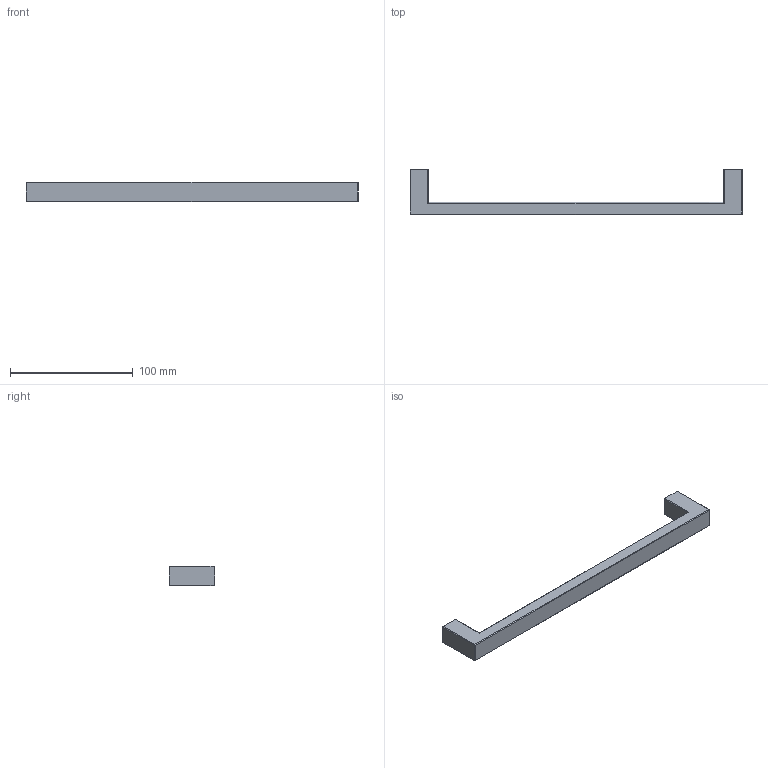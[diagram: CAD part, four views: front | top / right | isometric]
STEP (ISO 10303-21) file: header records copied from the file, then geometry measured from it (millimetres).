
FILE_DESCRIPTION( ( '' ), '1' );
FILE_NAME( 'C:/Documents and Settings/Sachin/Desktop/Sheet 10_1/stp/9113248.stp', '2013-10-22T06:54:17', ( '' ), ( '' ), ' ', ' ', ' ' );
FILE_SCHEMA( ( 'CONFIG_CONTROL_DESIGN' ) );
Length unit declared in the file: millimetre
Products named in the file (1): 1
Bounding box: 271 x 37 x 16 mm (x, y, z)
Volume: 56050.2 mm3; surface area: 17673 mm2
Topology: 1 solids, 1 shells, 36 faces, 88 edges, 56 vertices
Faces by surface type: cylinder 20, plane 16
Entity records: 1108 total; most frequent: DIRECTION 198, CARTESIAN_POINT 181, ORIENTED_EDGE 176, EDGE_CURVE 88, AXIS2_PLACEMENT_3D 73, VERTEX_POINT 56, LINE 52, VECTOR 52
